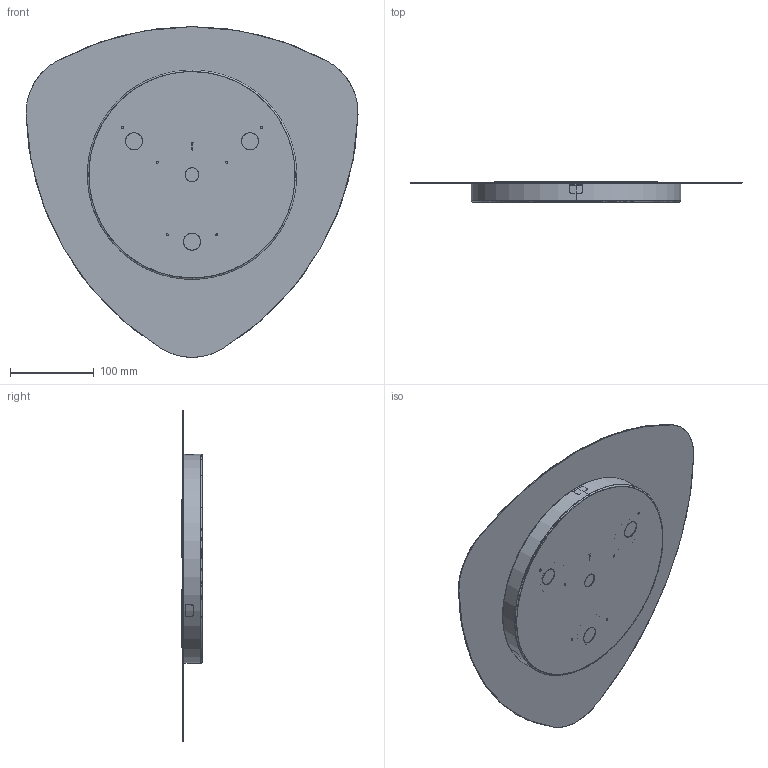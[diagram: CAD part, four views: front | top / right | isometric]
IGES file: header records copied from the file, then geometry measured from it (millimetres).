
Start section: SolidWorks IGES file using analytic representation for surfaces
Global section: file name: F:\GABRYSIA\MODELE 3D\ORGANIC-III-8302-8304-WWW\ORGANIC-III-8302-8304.IGS; native system: SolidWorks 2017; preprocessor: SolidWorks 2017; author: Togambi; date: 201023.161217; units: millimetre
Bounding box: 396.57 x 24.5 x 395.02 mm (x, y, z)
Surface area: 405049.1 mm2 (no closed solid volume)
Topology: 0 solids, 0 shells, 343 faces, 5232 edges, 5226 vertices
Faces by surface type: bspline 174, revolution 169
